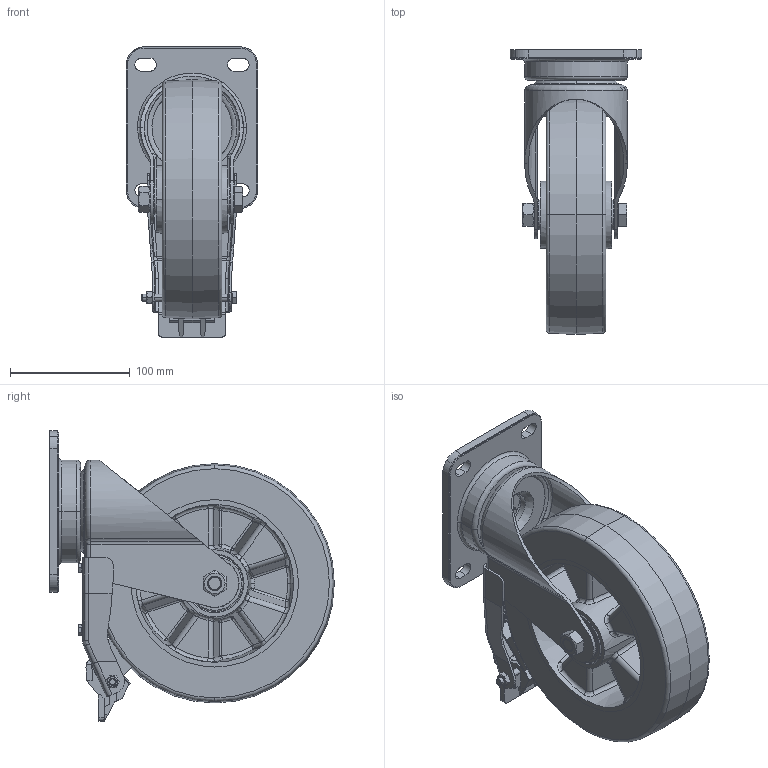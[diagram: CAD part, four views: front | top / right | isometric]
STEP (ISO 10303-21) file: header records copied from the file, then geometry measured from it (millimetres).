
FILE_DESCRIPTION (( 'STEP AP214' ), '1' );
FILE_NAME ('1.5031 Pyörä D200 H238 kääntyvä lukollinen kuulalaakerilla.STEP', '2025-09-17T07:57:57', ( '' ), ( '' ), 'SwSTEP 2.0', 'SolidWorks 2025', '' );
FILE_SCHEMA (( 'AUTOMOTIVE_DESIGN' ));
Length unit declared in the file: millimetre
Products named in the file (1): 1.5031 Pyörä D200 H238 kääntyvä lukollinen kuulalaakerilla
Bounding box: 110 x 238 x 242.73 mm (x, y, z)
Volume: 1379362.8 mm3; surface area: 359626.6 mm2
Topology: 26 solids, 66 shells, 2400 faces, 6014 edges, 3781 vertices
Faces by surface type: plane 935, bspline 748, cylinder 335, cone 216, torus 102, sphere 64
Entity records: 130754 total; most frequent: CARTESIAN_POINT 67476, ORIENTED_EDGE 11746, DIRECTION 6932, EDGE_CURVE 5873, VERTEX_POINT 3748, B_SPLINE_CURVE_WITH_KNOTS 2686, EDGE_LOOP 2579, AXIS2_PLACEMENT_3D 2405
